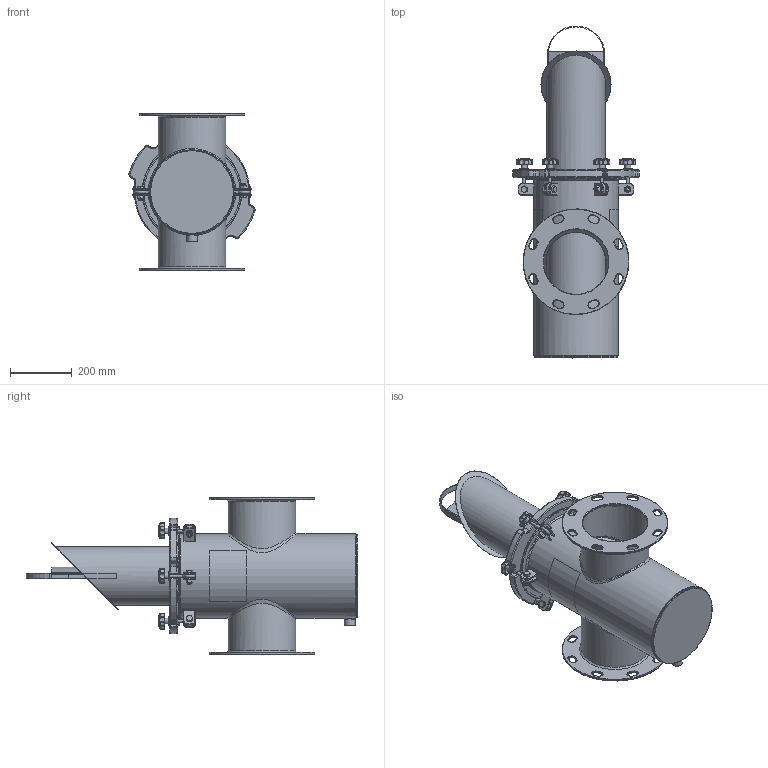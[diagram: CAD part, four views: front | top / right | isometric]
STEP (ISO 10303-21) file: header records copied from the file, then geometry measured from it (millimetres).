
FILE_DESCRIPTION(/* description */ ('10 3/4" STRAINER BODY'),/* implementation_level */ '2;1');
FILE_NAME(/* name */ 'C:\Users\r.kommineni.ext\Desktop\NB\CAD\Workspace\SS Straight\Guardian SS H&L Strainer (Inch)_CLEARANCE VOLUME\STRAINER H&L GUARDIAN 8(_DQ).stp',/* time_stamp */ '2017-06-09T13:08:36-04:00',/* author */ ('r.kommineni.ext'),/* organization */ (''),/* preprocessor_version */ 'ST-DEVELOPER v16.1',/* originating_system */ 'Autodesk Inventor 2016',/* authorisation */ '');
FILE_SCHEMA (('CONFIG_CONTROL_DESIGN'));
Length unit declared in the file: inch
Products named in the file (29): NBSSBODY08_Welds; FOR NBSSBODY08; FOR 10 3(_FS)4 DIA STRAINER BODY; FOR 10 3(_FS)4 DIA STRAINER BODY_1; 10 3(_FS)4 Body; ConcentricPipe-8(_DQ); 8(_DQ); For 10 3(_FS)4 Body; ASME B16.11 Half Coupling Threaded - Class 3000 3_4 x 3_4; 10 3(_FS)4 Body_1; NBSSBODY08; 150NBCVR48R1; 150NBGSK48R1; Perforated Basket 10in; Bride (Ring) 10in; Baffle 10in; Handle 10in; Bottom Strainer 10in; Nut- 1_2  UNC; Bolt-1_2 x 1 1_2  UNC; EyeBolt; Washer; Knob M10; Securing Assembly without Brace; Label for 10.75 inch (Right); Label for 10.75 inch (Left); NBBSK08T316_clearance; NBBSK08T316_clearance_1; STRAINER H&L GUARDIAN  8(_DQ)
Assembly tree (49 placements, depth 3):
  STRAINER H&L GUARDIAN  8(_DQ)
    NBSSBODY08
      NBSSBODY08_Welds
      FOR NBSSBODY08
      FOR 10 3(_FS)4 DIA STRAINER BODY
      FOR 10 3(_FS)4 DIA STRAINER BODY_1
      10 3(_FS)4 Body  x4
      ConcentricPipe-8(_DQ)  x2
      8(_DQ)  x2
      For 10 3(_FS)4 Body
      ASME B16.11 Half Coupling Threaded - Class 3000 3_4 x 3_4
      10 3(_FS)4 Body_1  x12
    150NBCVR48R1
    150NBGSK48R1
    NBBSK08T316_clearance_1
      Perforated Basket 10in
      Bride (Ring) 10in
      Baffle 10in
      Handle 10in
      Bottom Strainer 10in
      NBBSK08T316_clearance
    Securing Assembly without Brace  x6
      Nut- 1_2  UNC
      Bolt-1_2 x 1 1_2  UNC
      EyeBolt
      Washer
      Knob M10
    Label for 10.75 inch (Right)
    Label for 10.75 inch (Left)
Bounding box: 408.57 x 1075.33 x 508 mm (x, y, z)
Volume: 7291966.4 mm3; surface area: 3296168.3 mm2
Topology: 79 solids, 84 shells, 1714 faces, 3823 edges, 2257 vertices
Faces by surface type: cylinder 613, plane 472, torus 302, cone 143, bspline 94, sphere 90
Full cylindrical faces by diameter (mm): 3.175 x10, 6.35 x1, 8.382 x6, 9.525 x12, 10.592 x6, 12.7 x6, 15.875 x12, 19 x12, 19.05 x6, 22.8 x1, 22.809 x1, 31.75 x6, 35.052 x1, 187.325 x2, 190.5 x2, 193.04 x1, 211.137 x2, 213.517 x4, 219.075 x6, 264.716 x3, 266.7 x1, 269.875 x2, 273.05 x2, 276.225 x1, 311.15 x1, 317.5 x1, 323.85 x1, 342.9 x2
Entity records: 28106 total; most frequent: CARTESIAN_POINT 10510, DIRECTION 3808, ORIENTED_EDGE 3104, AXIS2_PLACEMENT_3D 1597, EDGE_CURVE 1578, VERTEX_POINT 1001, EDGE_LOOP 897, CIRCLE 768
